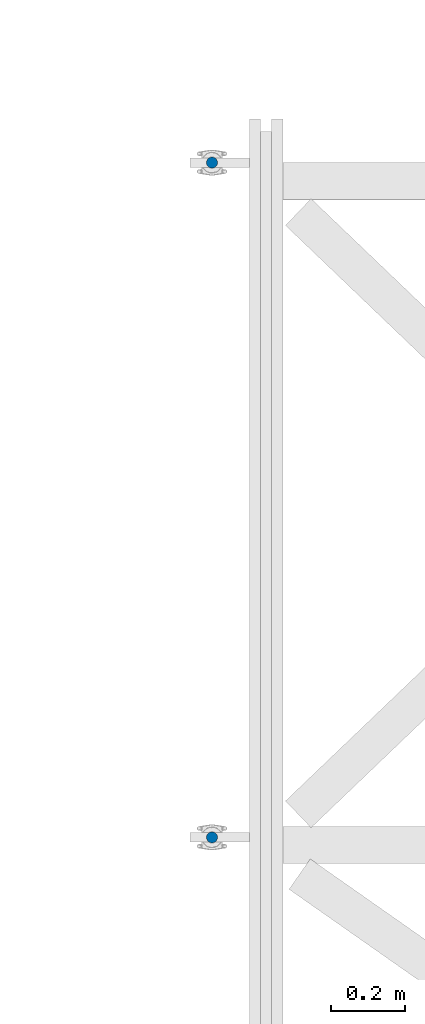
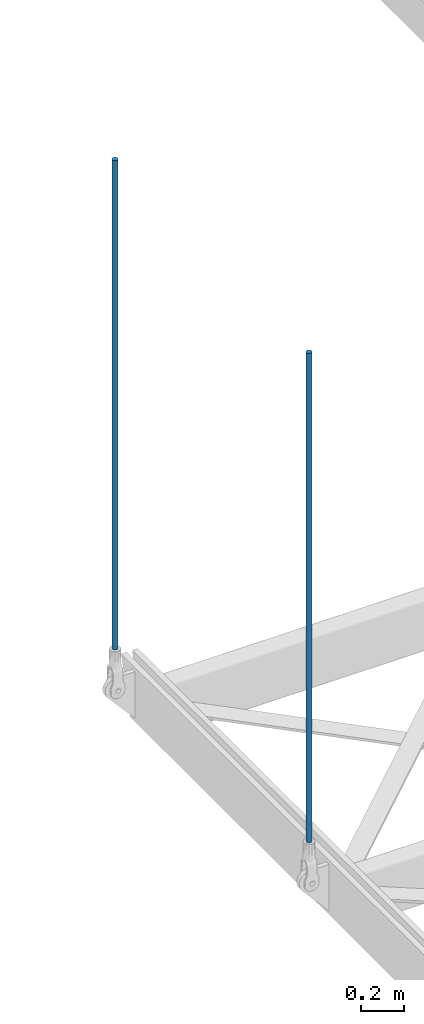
# One storey, part 3 of 34: 2 columns.
"""IFC2X3 building model written with IfcOpenShell, lengths in millimetres."""

from ifc_helpers import new_model, entity, si_unit, converted_unit, derived_unit, direction, frame, origin, origin_2d_with_axis, place, context, subcontext, project, spatial, circle, extrude, source, transform, mapped, material, type_object, type_shapes, element, save


model = new_model("IFC2X3")

# Units and contexts
model_context = context("Model", 3, precision=0.01, world=origin(), true_north=direction((6.12303176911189e-17, 1.0)))
body_context = subcontext(model_context, "Body", "Model", "MODEL_VIEW")
ifc_project = project(units=[si_unit("LENGTHUNIT", "METRE", prefix="MILLI"), si_unit("AREAUNIT", "SQUARE_METRE", prefix="MILLI"), si_unit("VOLUMEUNIT", "CUBIC_METRE"), converted_unit("PLANEANGLEUNIT", "DEGREE", entity("IfcRatioMeasure", 0.0174532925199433), si_unit("PLANEANGLEUNIT", "RADIAN"), dimensions=[0, 0, 0, 0, 0, 0, 0]), si_unit("MASSUNIT", "GRAM", prefix="KILO"), derived_unit("MASSDENSITYUNIT", [(si_unit("MASSUNIT", "GRAM", prefix="KILO"), 1), (si_unit("LENGTHUNIT", "METRE"), -3)]), derived_unit("MOMENTOFINERTIAUNIT", [(si_unit("LENGTHUNIT", "METRE"), 4)]), si_unit("TIMEUNIT", "SECOND"), si_unit("FREQUENCYUNIT", "HERTZ"), si_unit("THERMODYNAMICTEMPERATUREUNIT", "DEGREE_CELSIUS"), derived_unit("THERMALTRANSMITTANCEUNIT", [(si_unit("MASSUNIT", "GRAM", prefix="KILO"), 1), (si_unit("THERMODYNAMICTEMPERATUREUNIT", "KELVIN"), -1), (si_unit("TIMEUNIT", "SECOND"), -3)]), derived_unit("VOLUMETRICFLOWRATEUNIT", [(si_unit("LENGTHUNIT", "METRE"), 3), (si_unit("TIMEUNIT", "SECOND"), -1)]), si_unit("ELECTRICCURRENTUNIT", "AMPERE"), si_unit("ELECTRICVOLTAGEUNIT", "VOLT"), si_unit("POWERUNIT", "WATT"), si_unit("FORCEUNIT", "NEWTON", prefix="KILO"), si_unit("ILLUMINANCEUNIT", "LUX"), si_unit("LUMINOUSFLUXUNIT", "LUMEN"), si_unit("LUMINOUSINTENSITYUNIT", "CANDELA"), derived_unit("USERDEFINED", [(si_unit("MASSUNIT", "GRAM", prefix="KILO"), -1), (si_unit("LENGTHUNIT", "METRE"), -2), (si_unit("TIMEUNIT", "SECOND"), 3), (si_unit("LUMINOUSFLUXUNIT", "LUMEN"), 1)]), derived_unit("LINEARVELOCITYUNIT", [(si_unit("LENGTHUNIT", "METRE"), 1), (si_unit("TIMEUNIT", "SECOND"), -1)]), si_unit("PRESSUREUNIT", "PASCAL"), derived_unit("USERDEFINED", [(si_unit("LENGTHUNIT", "METRE"), -2), (si_unit("MASSUNIT", "GRAM", prefix="KILO"), 1), (si_unit("TIMEUNIT", "SECOND"), -2)]), derived_unit("LINEARFORCEUNIT", [(si_unit("MASSUNIT", "GRAM", prefix="KILO"), 1), (si_unit("LENGTHUNIT", "METRE"), 1), (si_unit("TIMEUNIT", "SECOND"), -2), (si_unit("LENGTHUNIT", "METRE"), -1)]), derived_unit("PLANARFORCEUNIT", [(si_unit("MASSUNIT", "GRAM", prefix="KILO"), 1), (si_unit("LENGTHUNIT", "METRE"), 1), (si_unit("TIMEUNIT", "SECOND"), -2), (si_unit("LENGTHUNIT", "METRE"), -2)])], contexts=[model_context])

# Site, building, storey
site_placement = place(None, origin())
site = spatial("IfcSite", under=ifc_project, at=site_placement, Name="Theater aan de Parade", CompositionType="ELEMENT")
building_placement = place(site_placement, origin())
building = spatial("IfcBuilding", under=site, at=building_placement, Name="Theater aan de Parade", CompositionType="ELEMENT")
storey_placement = place(building_placement, frame((0.0, 0.0, 3.49116848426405e-09)))
storey = spatial("IfcBuildingStorey", under=building, at=storey_placement, Name="00 begane grond", CompositionType="ELEMENT", Elevation=3.49116848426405e-09)

# Columns
ifc_material = material(Name="00_PBT_MAT_staal")
column_type_1 = type_object("IfcColumnType", Name="28_PBT_SC_staal_massief_rond:D30", PredefinedType="COLUMN", material=ifc_material)
shared_shape_1 = source(origin(), body_context, "Body", "SweptSolid", [
    extrude(circle(Radius=15.0000000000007, at=origin_2d_with_axis()), frame((37345.8281932, 30270.0, 168.0)), (0.0, 0.0, 1.0), 2801.99999999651),
])
type_shapes(column_type_1, [shared_shape_1])
column_1_placement = place(storey_placement, frame((0.0, 0.0, -3.49116848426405e-09)))
element("IfcColumn", 1, at=column_1_placement, inside=storey, type_object=column_type_1, material=ifc_material, Name="28_PBT_SC_staal_massief_rond:D30", ObjectType="28_PBT_SC_staal_massief_rond:D30", context=body_context, shape_type="MappedRepresentation", body=[
    mapped(shared_shape_1, transform((0.0, 0.0, 0.0), scale=1.0)),
])
column_type_2 = type_object("IfcColumnType", Name="28_PBT_SC_staal_massief_rond:D30", PredefinedType="COLUMN", material=ifc_material)
shared_shape_2 = source(origin(), body_context, "Body", "SweptSolid", [
    extrude(circle(Radius=15.0000000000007, at=origin_2d_with_axis()), frame((37345.8281932, 28450.0, 168.0)), (0.0, 0.0, 1.0), 2801.99999999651),
])
type_shapes(column_type_2, [shared_shape_2])
column_2_placement = place(storey_placement, frame((0.0, 0.0, -3.49116848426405e-09)))
element("IfcColumn", 2, at=column_2_placement, inside=storey, type_object=column_type_2, material=ifc_material, Name="28_PBT_SC_staal_massief_rond:D30", ObjectType="28_PBT_SC_staal_massief_rond:D30", context=body_context, shape_type="MappedRepresentation", body=[
    mapped(shared_shape_2, transform((0.0, 0.0, 0.0), scale=1.0)),
])

save(model, "model.ifc")
